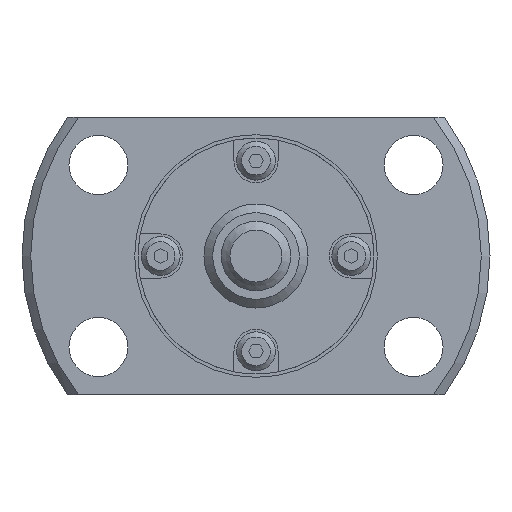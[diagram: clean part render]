
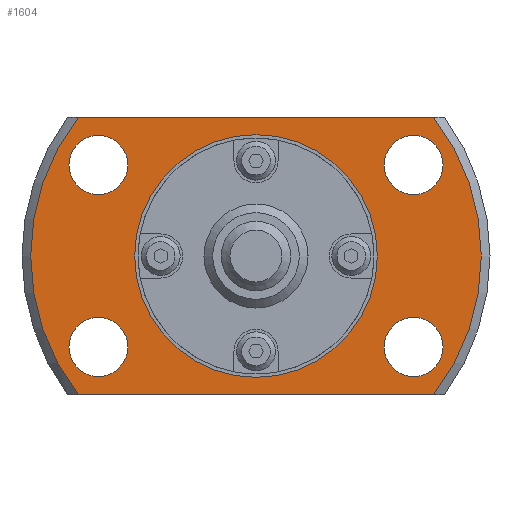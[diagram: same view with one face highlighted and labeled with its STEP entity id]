
A CAD part, left-side view. The second image highlights one B-rep face of the part: STEP entity #1604.
In plain terms, the highlighted planar face has unit normal (-1, 0, 0).
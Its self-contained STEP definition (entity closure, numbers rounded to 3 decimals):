
#129=LINE('',#2638,#249);
#130=LINE('',#2642,#250);
#249=VECTOR('',#2124,1000.);
#250=VECTOR('',#2127,1000.);
#463=ORIENTED_EDGE('',*,*,#835,.T.);
#464=ORIENTED_EDGE('',*,*,#836,.T.);
#465=ORIENTED_EDGE('',*,*,#837,.T.);
#466=ORIENTED_EDGE('',*,*,#838,.T.);
#467=ORIENTED_EDGE('',*,*,#792,.F.);
#468=ORIENTED_EDGE('',*,*,#839,.T.);
#469=ORIENTED_EDGE('',*,*,#840,.F.);
#470=ORIENTED_EDGE('',*,*,#841,.T.);
#471=ORIENTED_EDGE('',*,*,#834,.T.);
#792=EDGE_CURVE('',#994,#995,#1119,.T.);
#834=EDGE_CURVE('',#1031,#1031,#1140,.T.);
#835=EDGE_CURVE('',#1032,#1032,#1141,.T.);
#836=EDGE_CURVE('',#1033,#1033,#1142,.T.);
#837=EDGE_CURVE('',#1034,#1034,#1143,.T.);
#838=EDGE_CURVE('',#1035,#1035,#1144,.T.);
#839=EDGE_CURVE('',#994,#1036,#129,.T.);
#840=EDGE_CURVE('',#1037,#1036,#1145,.T.);
#841=EDGE_CURVE('',#1037,#995,#130,.T.);
#994=VERTEX_POINT('',#2531);
#995=VERTEX_POINT('',#2533);
#1031=VERTEX_POINT('',#2628);
#1032=VERTEX_POINT('',#2631);
#1033=VERTEX_POINT('',#2633);
#1034=VERTEX_POINT('',#2635);
#1035=VERTEX_POINT('',#2637);
#1036=VERTEX_POINT('',#2639);
#1037=VERTEX_POINT('',#2641);
#1119=CIRCLE('',#1757,13.);
#1140=CIRCLE('',#1786,6.8);
#1141=CIRCLE('',#1788,1.7);
#1142=CIRCLE('',#1789,1.7);
#1143=CIRCLE('',#1790,1.7);
#1144=CIRCLE('',#1791,1.7);
#1145=CIRCLE('',#1792,13.);
#1236=EDGE_LOOP('',(#463));
#1237=EDGE_LOOP('',(#464));
#1238=EDGE_LOOP('',(#465));
#1239=EDGE_LOOP('',(#466));
#1240=EDGE_LOOP('',(#467,#468,#469,#470));
#1241=EDGE_LOOP('',(#471));
#1402=FACE_BOUND('',#1236,.T.);
#1403=FACE_BOUND('',#1237,.T.);
#1404=FACE_BOUND('',#1238,.T.);
#1405=FACE_BOUND('',#1239,.T.);
#1406=FACE_BOUND('',#1240,.T.);
#1407=FACE_BOUND('',#1241,.T.);
#1520=PLANE('',#1787);
#1604=ADVANCED_FACE('',(#1402,#1403,#1404,#1405,#1406,#1407),#1520,.F.);
#1757=AXIS2_PLACEMENT_3D('',#2532,#2036,#2037);
#1786=AXIS2_PLACEMENT_3D('',#2627,#2112,#2113);
#1787=AXIS2_PLACEMENT_3D('',#2629,#2114,#2115);
#1788=AXIS2_PLACEMENT_3D('',#2630,#2116,#2117);
#1789=AXIS2_PLACEMENT_3D('',#2632,#2118,#2119);
#1790=AXIS2_PLACEMENT_3D('',#2634,#2120,#2121);
#1791=AXIS2_PLACEMENT_3D('',#2636,#2122,#2123);
#1792=AXIS2_PLACEMENT_3D('',#2640,#2125,#2126);
#2036=DIRECTION('',(1.,0.,0.));
#2037=DIRECTION('',(0.,0.,-1.));
#2112=DIRECTION('',(1.,0.,0.));
#2113=DIRECTION('',(0.,0.,-1.));
#2114=DIRECTION('',(1.,0.,0.));
#2115=DIRECTION('',(0.,0.,-1.));
#2116=DIRECTION('',(1.,0.,0.));
#2117=DIRECTION('',(0.,0.,-1.));
#2118=DIRECTION('',(1.,0.,0.));
#2119=DIRECTION('',(0.,0.,-1.));
#2120=DIRECTION('',(1.,0.,0.));
#2121=DIRECTION('',(0.,0.,-1.));
#2122=DIRECTION('',(1.,0.,0.));
#2123=DIRECTION('',(0.,0.,-1.));
#2124=DIRECTION('',(0.,-1.,0.));
#2125=DIRECTION('',(1.,0.,0.));
#2126=DIRECTION('',(0.,0.,-1.));
#2127=DIRECTION('',(0.,1.,0.));
#2531=CARTESIAN_POINT('',(8.,10.247,-8.));
#2532=CARTESIAN_POINT('',(8.,0.,0.));
#2533=CARTESIAN_POINT('',(8.,10.247,8.));
#2627=CARTESIAN_POINT('',(8.,0.,0.));
#2628=CARTESIAN_POINT('',(8.,0.,-6.8));
#2629=CARTESIAN_POINT('',(8.,6.8,0.));
#2630=CARTESIAN_POINT('',(8.,-9.093,-5.25));
#2631=CARTESIAN_POINT('',(8.,-9.093,-6.95));
#2632=CARTESIAN_POINT('',(8.,-9.093,5.25));
#2633=CARTESIAN_POINT('',(8.,-9.093,3.55));
#2634=CARTESIAN_POINT('',(8.,9.093,-5.25));
#2635=CARTESIAN_POINT('',(8.,9.093,-6.95));
#2636=CARTESIAN_POINT('',(8.,9.093,5.25));
#2637=CARTESIAN_POINT('',(8.,9.093,3.55));
#2638=CARTESIAN_POINT('',(8.,6.8,-8.));
#2639=CARTESIAN_POINT('',(8.,-10.247,-8.));
#2640=CARTESIAN_POINT('',(8.,0.,0.));
#2641=CARTESIAN_POINT('',(8.,-10.247,8.));
#2642=CARTESIAN_POINT('',(8.,6.8,8.));
